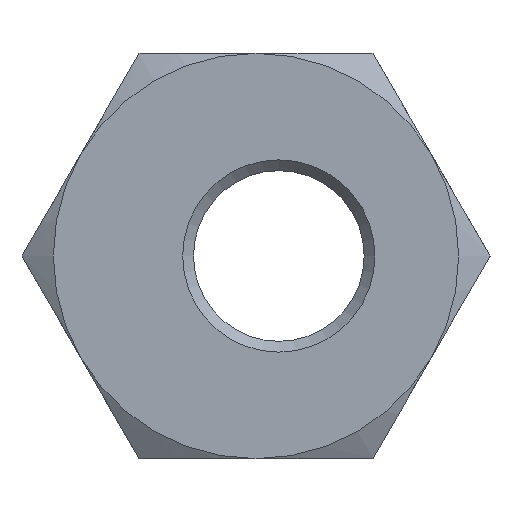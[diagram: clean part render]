
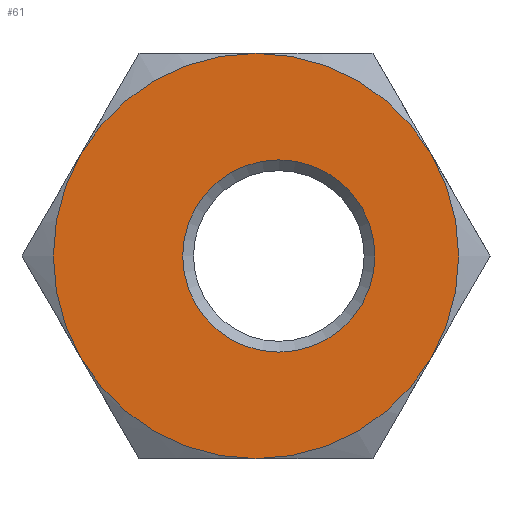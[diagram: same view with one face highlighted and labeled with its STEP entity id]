
A CAD part, left-side view. The second image highlights one B-rep face of the part: STEP entity #61.
In plain terms, the highlighted planar face has unit normal (-1, 0, 0).
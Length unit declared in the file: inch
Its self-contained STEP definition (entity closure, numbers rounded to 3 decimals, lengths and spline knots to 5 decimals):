
#61 = ADVANCED_FACE( '', ( #140, #141 ), #142, .F. );
#140 = FACE_OUTER_BOUND( '', #237, .T. );
#141 = FACE_BOUND( '', #238, .T. );
#142 = PLANE( '', #239 );
#237 = EDGE_LOOP( '', ( #347, #348, #349, #350, #351, #352 ) );
#238 = EDGE_LOOP( '', ( #353 ) );
#239 = AXIS2_PLACEMENT_3D( '', #354, #355, #356 );
#347 = ORIENTED_EDGE( '', *, *, #538, .F. );
#348 = ORIENTED_EDGE( '', *, *, #539, .F. );
#349 = ORIENTED_EDGE( '', *, *, #540, .F. );
#350 = ORIENTED_EDGE( '', *, *, #541, .F. );
#351 = ORIENTED_EDGE( '', *, *, #542, .F. );
#352 = ORIENTED_EDGE( '', *, *, #543, .F. );
#353 = ORIENTED_EDGE( '', *, *, #536, .T. );
#354 = CARTESIAN_POINT( '', ( 0., 0., 0. ) );
#355 = DIRECTION( '', ( 1., 0., 0. ) );
#356 = DIRECTION( '', ( 0., 0., -1. ) );
#536 = EDGE_CURVE( '', #625, #625, #626, .T. );
#538 = EDGE_CURVE( '', #628, #629, #630, .T. );
#539 = EDGE_CURVE( '', #631, #628, #632, .T. );
#540 = EDGE_CURVE( '', #633, #631, #634, .T. );
#541 = EDGE_CURVE( '', #635, #633, #636, .T. );
#542 = EDGE_CURVE( '', #637, #635, #638, .T. );
#543 = EDGE_CURVE( '', #629, #637, #639, .T. );
#625 = VERTEX_POINT( '', #756 );
#626 = CIRCLE( '', #757, 0.17748 );
#628 = VERTEX_POINT( '', #759 );
#629 = VERTEX_POINT( '', #760 );
#630 = CIRCLE( '', #761, 0.37402 );
#631 = VERTEX_POINT( '', #762 );
#632 = CIRCLE( '', #763, 0.37402 );
#633 = VERTEX_POINT( '', #764 );
#634 = CIRCLE( '', #765, 0.37402 );
#635 = VERTEX_POINT( '', #766 );
#636 = CIRCLE( '', #767, 0.37402 );
#637 = VERTEX_POINT( '', #768 );
#638 = CIRCLE( '', #769, 0.37402 );
#639 = CIRCLE( '', #770, 0.37402 );
#756 = CARTESIAN_POINT( '', ( 0., -0.04213, -0.17748 ) );
#757 = AXIS2_PLACEMENT_3D( '', #984, #985, #986 );
#759 = CARTESIAN_POINT( '', ( 0., 0.32391, -0.18701 ) );
#760 = CARTESIAN_POINT( '', ( 0., 0.32391, 0.18701 ) );
#761 = AXIS2_PLACEMENT_3D( '', #987, #988, #989 );
#762 = CARTESIAN_POINT( '', ( 0., 0., -0.37402 ) );
#763 = AXIS2_PLACEMENT_3D( '', #990, #991, #992 );
#764 = CARTESIAN_POINT( '', ( 0., -0.32391, -0.18701 ) );
#765 = AXIS2_PLACEMENT_3D( '', #993, #994, #995 );
#766 = CARTESIAN_POINT( '', ( 0., -0.32391, 0.18701 ) );
#767 = AXIS2_PLACEMENT_3D( '', #996, #997, #998 );
#768 = CARTESIAN_POINT( '', ( 0., 0., 0.37402 ) );
#769 = AXIS2_PLACEMENT_3D( '', #999, #1000, #1001 );
#770 = AXIS2_PLACEMENT_3D( '', #1002, #1003, #1004 );
#984 = CARTESIAN_POINT( '', ( 0., -0.04213, 0. ) );
#985 = DIRECTION( '', ( 1., 0., 0. ) );
#986 = DIRECTION( '', ( 0., 0., -1. ) );
#987 = CARTESIAN_POINT( '', ( 0., 0., 0. ) );
#988 = DIRECTION( '', ( 1., 0., 0. ) );
#989 = DIRECTION( '', ( 0., 0., -1. ) );
#990 = CARTESIAN_POINT( '', ( 0., 0., 0. ) );
#991 = DIRECTION( '', ( 1., 0., 0. ) );
#992 = DIRECTION( '', ( 0., 0., -1. ) );
#993 = CARTESIAN_POINT( '', ( 0., 0., 0. ) );
#994 = DIRECTION( '', ( 1., 0., 0. ) );
#995 = DIRECTION( '', ( 0., 0., -1. ) );
#996 = CARTESIAN_POINT( '', ( 0., 0., 0. ) );
#997 = DIRECTION( '', ( 1., 0., 0. ) );
#998 = DIRECTION( '', ( 0., 0., -1. ) );
#999 = CARTESIAN_POINT( '', ( 0., 0., 0. ) );
#1000 = DIRECTION( '', ( 1., 0., 0. ) );
#1001 = DIRECTION( '', ( 0., 0., -1. ) );
#1002 = CARTESIAN_POINT( '', ( 0., 0., 0. ) );
#1003 = DIRECTION( '', ( 1., 0., 0. ) );
#1004 = DIRECTION( '', ( 0., 0., -1. ) );
